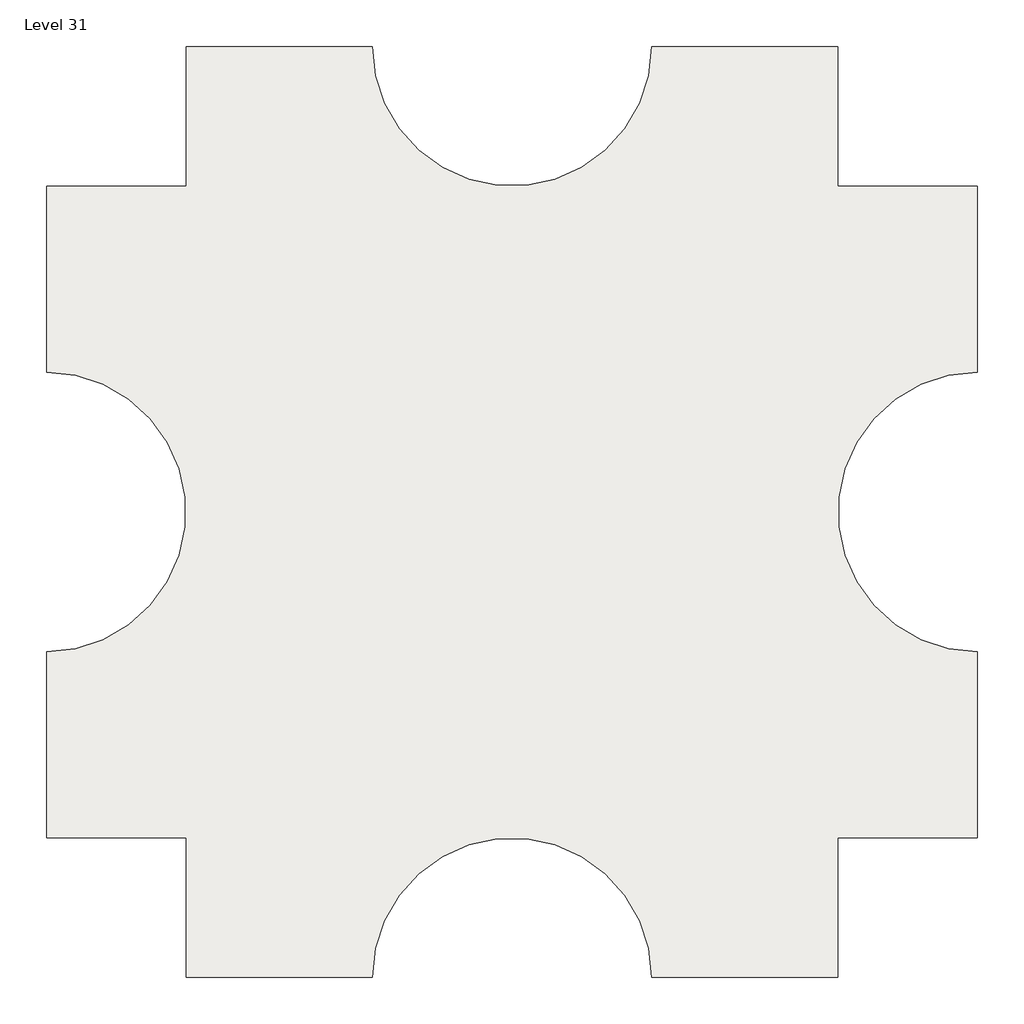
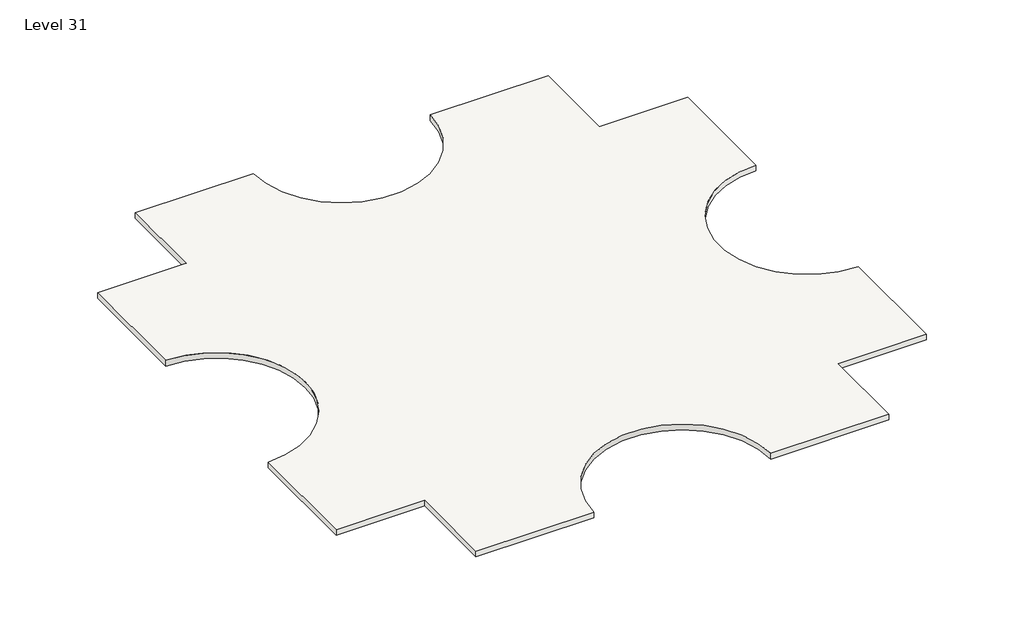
# One storey: 2 slabs.
"""IFC4 building model written with IfcOpenShell, lengths in millimetres."""

import ifcopenshell
import ifcopenshell.guid

model = None  # the IFC model being written
_history = None  # IfcOwnerHistory: only IFC2X3 demands one
_inside = {}  # id of a spatial element -> (the spatial element, [elements in it])
_under = {}  # id of a project, library or spatial element -> (it, [spatial elements below it])
_declared = {}  # id of a project -> (the project, [libraries it declares])
_typed = {}  # id of a type object -> (the type object, [elements of that type])
_made_of = {}  # id of a material, layer set ... -> (it, [elements and type objects made of it])


def new_model(schema):
    """Start an empty IFC model of exactly this schema.

    Asked for "IFC4X3", IfcOpenShell would pick the latest addendum, in which some entities
    have other attributes; the version numbers below select the first issue.
    IFC2X3 requires an IfcOwnerHistory on every rooted entity: one is made here for all.
    """
    global model, _history
    if schema == "IFC4X3":
        model = ifcopenshell.file(schema_version=(4, 3, 0, 0))
    else:
        model = ifcopenshell.file(schema=schema)
    _inside.clear()
    _under.clear()
    _declared.clear()
    _typed.clear()
    _made_of.clear()
    _history = None
    if model.schema == "IFC2X3":
        org = make("IfcOrganization", Name="unknown")
        user = make(
            "IfcPersonAndOrganization",
            ThePerson=make("IfcPerson", FamilyName="unknown"),
            TheOrganization=org,
        )
        app = make(
            "IfcApplication",
            ApplicationDeveloper=org,
            Version="unknown",
            ApplicationFullName="unknown",
            ApplicationIdentifier="unknown",
        )
        _history = make(
            "IfcOwnerHistory",
            OwningUser=user,
            OwningApplication=app,
            ChangeAction="ADDED",
            CreationDate=0,
        )
    return model


def make(cls, **values):
    """One entity of the class cls with the attributes given. An attribute that is None is left unset."""
    return model.create_entity(
        cls, **{name: value for name, value in values.items() if value is not None}
    )


def rooted(cls, **values):
    """An entity with a GlobalId (a new one), such as an element, a storey or a relation."""
    return make(cls, GlobalId=ifcopenshell.guid.new(), OwnerHistory=_history, **values)


def si_unit(unit_type, name, prefix=None):
    """IfcSIUnit, for example si_unit("LENGTHUNIT", "METRE", prefix="MILLI")."""
    return make("IfcSIUnit", UnitType=unit_type, Prefix=prefix, Name=name)


def assignment(units):
    """IfcUnitAssignment: the units of a project."""
    return None if units is None else make("IfcUnitAssignment", Units=units)


def point(xyz):
    """IfcCartesianPoint."""
    return None if xyz is None else make("IfcCartesianPoint", Coordinates=xyz)


def direction(xyz):
    """IfcDirection."""
    return None if xyz is None else make("IfcDirection", DirectionRatios=xyz)


def frame(location, z_axis=None, x_axis=None):
    """IfcAxis2Placement3D, a coordinate frame: its origin and axes. An axis left out is left unset."""
    return make(
        "IfcAxis2Placement3D",
        Location=point(location),
        Axis=direction(z_axis),
        RefDirection=direction(x_axis),
    )


def frame_2d(location, x_axis=None):
    """IfcAxis2Placement2D, a coordinate frame in the plane: its origin and x axis."""
    return make(
        "IfcAxis2Placement2D", Location=point(location), RefDirection=direction(x_axis)
    )


def origin():
    """The frame at (0, 0, 0) with its axes left unset."""
    return frame((0.0, 0.0, 0.0))


def place(relative_to, where):
    """IfcLocalPlacement: puts the frame where relative to a parent placement (None: the world)."""
    return make(
        "IfcLocalPlacement", PlacementRelTo=relative_to, RelativePlacement=where
    )


def context(
    kind, dimensions, precision=None, world=None, true_north=None, identifier=None
):
    """IfcGeometricRepresentationContext, for example the 3D "Model" context."""
    return make(
        "IfcGeometricRepresentationContext",
        ContextIdentifier=identifier,
        ContextType=kind,
        CoordinateSpaceDimension=dimensions,
        Precision=precision,
        WorldCoordinateSystem=world,
        TrueNorth=true_north,
    )


def project(units=None, contexts=None):
    """IfcProject with its units and contexts."""
    return rooted(
        "IfcProject",
        Name="project",
        RepresentationContexts=contexts,
        UnitsInContext=assignment(units),
    )


def spatial(cls, under=None, at=None, **own):
    """A site, building, storey or space (cls), placed at a placement, below another one or the project."""
    s = rooted(cls, ObjectPlacement=at, **own)
    if under is not None:
        _under.setdefault(under.id(), (under, []))[1].append(s)
    return s


def polyline(points):
    """IfcPolyline through the points."""
    return make("IfcPolyline", Points=[point(p) for p in points])


def circle_curve(where, radius):
    """IfcCircle in the frame where."""
    return make("IfcCircle", Position=where, Radius=radius)


def trimmed(basis, trim1, trim2, sense, master):
    """IfcTrimmedCurve: the piece of a basis curve between two trims."""
    return make(
        "IfcTrimmedCurve",
        BasisCurve=basis,
        Trim1=trim1,
        Trim2=trim2,
        SenseAgreement=sense,
        MasterRepresentation=master,
    )


def segment(curve, same_sense, transition):
    """IfcCompositeCurveSegment."""
    return make(
        "IfcCompositeCurveSegment",
        Transition=transition,
        SameSense=same_sense,
        ParentCurve=curve,
    )


def composite_curve(segments, self_intersect=None):
    """IfcCompositeCurve: segments joined end to end."""
    return make("IfcCompositeCurve", Segments=segments, SelfIntersect=self_intersect)


def outline(outer, holes=None, kind="AREA"):
    """IfcArbitraryClosedProfileDef: a profile drawn as a closed curve; with holes, ...WithVoids."""
    if holes is None:
        return make("IfcArbitraryClosedProfileDef", ProfileType=kind, OuterCurve=outer)
    return make(
        "IfcArbitraryProfileDefWithVoids",
        ProfileType=kind,
        OuterCurve=outer,
        InnerCurves=holes,
    )


def extrude(swept, where, along, depth):
    """IfcExtrudedAreaSolid: the profile swept, set in the frame where, extruded along a direction by depth."""
    return make(
        "IfcExtrudedAreaSolid",
        SweptArea=swept,
        Position=where,
        ExtrudedDirection=direction(along),
        Depth=depth,
    )


def shape(context_of_items, identifier, shape_type, items):
    """IfcShapeRepresentation: the items that make up one representation, for example the "Body"."""
    return make(
        "IfcShapeRepresentation",
        ContextOfItems=context_of_items,
        RepresentationIdentifier=identifier,
        RepresentationType=shape_type,
        Items=items,
    )


def made_of(thing, what):
    """Note that an element or type object is made of a material, layer set ...; save() writes the relation."""
    if what is not None:
        _made_of.setdefault(what.id(), (what, []))[1].append(thing)
    return thing


def element(
    cls,
    number,
    at=None,
    inside=None,
    cuts=None,
    type_object=None,
    material=None,
    context=None,
    identifier="Body",
    shape_type=None,
    held_by="IfcProductDefinitionShape",
    body=None,
    shapes=None,
    **own,
):
    """One element of the class cls, such as IfcWall. Its Tag is "e" and its number.

    at: its placement. inside: the storey or other place that contains it. cuts: it is an
    opening in that element (IfcRelVoidsElement). A single representation is given by context,
    identifier, shape_type and body (its items); several are given by shapes. held_by: the class
    of the entity that holds the representations. save() writes the other relations.
    """
    e = rooted(cls, Tag="e%d" % number, ObjectPlacement=at, **own)
    if body is not None:
        shapes = [shape(context, identifier, shape_type, body)]
    if shapes is not None:
        e.Representation = make(held_by, Representations=shapes)
    if inside is not None:
        _inside.setdefault(inside.id(), (inside, []))[1].append(e)
    if cuts is not None:
        rooted(
            "IfcRelVoidsElement", RelatingBuildingElement=cuts, RelatedOpeningElement=e
        )
    if type_object is not None:
        _typed.setdefault(type_object.id(), (type_object, []))[1].append(e)
    return made_of(e, material)


def aggregate(whole, parts):
    """IfcRelAggregates: a whole, such as a stair, and the parts it consists of."""
    return rooted("IfcRelAggregates", RelatingObject=whole, RelatedObjects=parts)


def save(model, path):
    """Write the relations noted so far, then the file.

    IfcRelAggregates (storeys below a building ...), IfcRelContainedInSpatialStructure (elements
    in a storey), IfcRelDefinesByType, IfcRelAssociatesMaterial and IfcRelDeclares: one each for
    every whole, place, type object, material and project.
    """
    for whole, parts in _under.values():
        aggregate(whole, parts)
    for where, things in _inside.values():
        rooted(
            "IfcRelContainedInSpatialStructure",
            RelatedElements=things,
            RelatingStructure=where,
        )
    for kind, things in _typed.values():
        rooted("IfcRelDefinesByType", RelatedObjects=things, RelatingType=kind)
    for what, things in _made_of.values():
        rooted("IfcRelAssociatesMaterial", RelatedObjects=things, RelatingMaterial=what)
    for by, libraries in _declared.values():
        rooted("IfcRelDeclares", RelatingContext=by, RelatedDefinitions=libraries)
    model.write(path)


model = new_model("IFC4")

# Units and contexts
model_context = context("Model", 3, world=origin())
ifc_project = project(units=[si_unit("LENGTHUNIT", "METRE", prefix="MILLI")], contexts=[model_context])

# Site, building, storey
site = spatial("IfcSite", under=ifc_project)
building = spatial("IfcBuilding", under=site)
storey = spatial("IfcBuildingStorey", under=building, Name="Level 31", Elevation=91440.0)

# Slabs
placement = place(None, origin())
element("IfcSlab", 1, ObjectType="Generic - 12\"", at=placement, inside=storey, context=model_context, shape_type="SweptSolid", body=[
    extrude(outline(composite_curve([segment(polyline([(-7150.3629456, 4479.6634547), (-7150.3629456, 9051.6634547), (-1054.3629456, 9051.6634547)]), True, "CONTINUOUS"), segment(trimmed(circle_curve(frame_2d((3517.6370544, 9051.6634547)), 4572.0), [point((-1054.3629456, 9051.6634547))], [point((8089.6370544, 9051.6634547))], True, "CARTESIAN"), True, "CONTINUOUS"), segment(polyline([(8089.6370544, 9051.6634547), (14185.6370544, 9051.6634547), (14185.6370544, 4479.6634547), (18757.6370544, 4479.6634547), (18757.6370544, -1616.3365453)]), True, "CONTINUOUS"), segment(trimmed(circle_curve(frame_2d((18757.6370544, -6188.3365453)), 4572.0), [point((18757.6370544, -1616.3365453))], [point((18757.6370544, -10760.3365453))], True, "CARTESIAN"), True, "CONTINUOUS"), segment(polyline([(18757.6370544, -10760.3365453), (18757.6370544, -16856.3365453), (14185.6370544, -16856.3365453), (14185.6370544, -21428.3365453), (8089.6370544, -21428.3365453)]), True, "CONTINUOUS"), segment(trimmed(circle_curve(frame_2d((3517.6370544, -21428.3365453)), 4572.0), [point((8089.6370544, -21428.3365453))], [point((-1054.3629456, -21428.3365453))], True, "CARTESIAN"), True, "CONTINUOUS"), segment(polyline([(-1054.3629456, -21428.3365453), (-7150.3629456, -21428.3365453), (-7150.3629456, -16856.3365453), (-11722.3629456, -16856.3365453), (-11722.3629456, -10760.3365453)]), True, "CONTINUOUS"), segment(trimmed(circle_curve(frame_2d((-11722.3629456, -6188.3365453)), 4572.0), [point((-11722.3629456, -10760.3365453))], [point((-11722.3629456, -1616.3365453))], True, "CARTESIAN"), True, "CONTINUOUS"), segment(polyline([(-11722.3629456, -1616.3365453), (-11722.3629456, 4479.6634547), (-7150.3629456, 4479.6634547)]), True, "CONTINUOUS")], self_intersect=False)), frame((0.0, 0.0, 91135.2), z_axis=(0.0, 0.0, 1.0), x_axis=(1.0, 0.0, 0.0)), (0.0, 0.0, 1.0), 304.8),
])
element("IfcSlab", 2, ObjectType="Generic - 12\"", at=placement, inside=storey, context=model_context, shape_type="SweptSolid", body=[
    extrude(outline(composite_curve([segment(polyline([(-7150.3629456, 4479.6634547), (-7150.3629456, 9051.6634547), (-1054.3629456, 9051.6634547)]), True, "CONTINUOUS"), segment(trimmed(circle_curve(frame_2d((3517.6370544, 9051.6634547)), 4572.0), [point((-1054.3629456, 9051.6634547))], [point((8089.6370544, 9051.6634547))], True, "CARTESIAN"), True, "CONTINUOUS"), segment(polyline([(8089.6370544, 9051.6634547), (14185.6370544, 9051.6634547), (14185.6370544, 4479.6634547), (18757.6370544, 4479.6634547), (18757.6370544, -1616.3365453)]), True, "CONTINUOUS"), segment(trimmed(circle_curve(frame_2d((18757.6370544, -6188.3365453)), 4572.0), [point((18757.6370544, -1616.3365453))], [point((18757.6370544, -10760.3365453))], True, "CARTESIAN"), True, "CONTINUOUS"), segment(polyline([(18757.6370544, -10760.3365453), (18757.6370544, -16856.3365453), (14185.6370544, -16856.3365453), (14185.6370544, -21428.3365453), (8089.6370544, -21428.3365453)]), True, "CONTINUOUS"), segment(trimmed(circle_curve(frame_2d((3517.6370544, -21428.3365453)), 4572.0), [point((8089.6370544, -21428.3365453))], [point((-1054.3629456, -21428.3365453))], True, "CARTESIAN"), True, "CONTINUOUS"), segment(polyline([(-1054.3629456, -21428.3365453), (-7150.3629456, -21428.3365453), (-7150.3629456, -16856.3365453), (-11722.3629456, -16856.3365453), (-11722.3629456, -10760.3365453)]), True, "CONTINUOUS"), segment(trimmed(circle_curve(frame_2d((-11722.3629456, -6188.3365453)), 4572.0), [point((-11722.3629456, -10760.3365453))], [point((-11722.3629456, -1616.3365453))], True, "CARTESIAN"), True, "CONTINUOUS"), segment(polyline([(-11722.3629456, -1616.3365453), (-11722.3629456, 4479.6634547), (-7150.3629456, 4479.6634547)]), True, "CONTINUOUS")], self_intersect=False)), frame((0.0, 0.0, 91135.2), z_axis=(0.0, 0.0, 1.0), x_axis=(1.0, 0.0, 0.0)), (0.0, 0.0, 1.0), 304.8),
])

save(model, "model.ifc")
